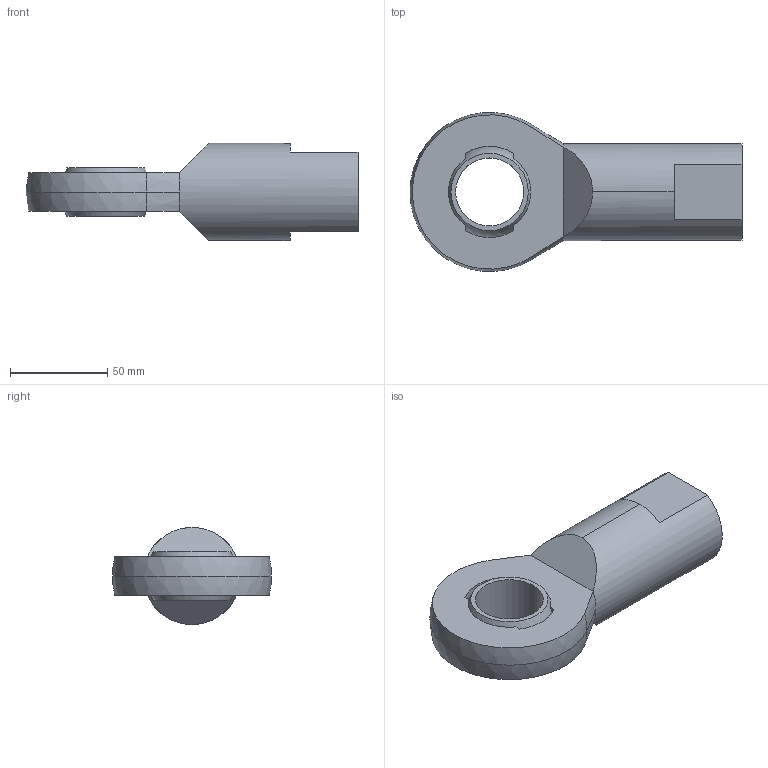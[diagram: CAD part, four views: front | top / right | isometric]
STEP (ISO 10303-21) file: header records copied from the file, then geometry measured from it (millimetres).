
FILE_DESCRIPTION (( 'STEP AP203' ), '1' );
FILE_NAME ('65880.W0236.step', '2014-02-06T18:32:49', ( 'User' ), ( '' ), 'SwSTEP 2.0', 'SolidWorks 2009', '' );
FILE_SCHEMA (( 'CONFIG_CONTROL_DESIGN' ));
Length unit declared in the file: millimetre
Products named in the file (3): Part2_65880.W0236; 65880.W0236; Part1_65880.W0236
Assembly tree (2 placements, depth 2):
  65880.W0236
    Part2_65880.W0236
    Part1_65880.W0236
Bounding box: 171 x 81.88 x 50 mm (x, y, z)
Volume: 186956.3 mm3; surface area: 45135.3 mm2
Topology: 2 solids, 2 shells, 45 faces, 108 edges, 67 vertices
Faces by surface type: plane 20, cylinder 10, sphere 8, cone 7
Entity records: 1624 total; most frequent: CARTESIAN_POINT 253, DIRECTION 253, ORIENTED_EDGE 208, AXIS2_PLACEMENT_3D 107, EDGE_CURVE 104, VERTEX_POINT 67, CIRCLE 57, EDGE_LOOP 53
